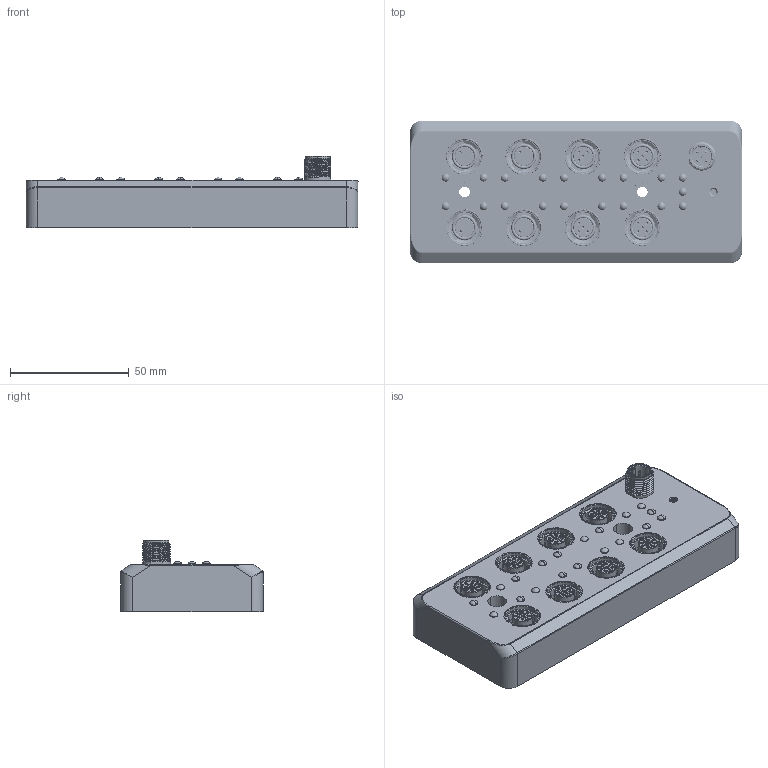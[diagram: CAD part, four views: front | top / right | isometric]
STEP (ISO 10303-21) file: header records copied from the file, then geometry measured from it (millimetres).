
FILE_DESCRIPTION((''),'2;1');
FILE_NAME('IO-LINK-00','2026-06-10T15:26:41',('zhouyu1'),(''),'CREO PARAMETRIC BY PTC INC, 2016390','CREO PARAMETRIC BY PTC INC, 2016390','');
FILE_SCHEMA(('AUTOMOTIVE_DESIGN { 1 0 10303 214 1 1 1 1 }'));
Products named in the file (1): IO-LINK-00
Bounding box: 140 x 60 x 30 mm (x, y, z)
Volume: 72083.6 mm3; surface area: 64898.7 mm2
Topology: 1 solids, 8 shells, 3008 faces, 7528 edges, 4853 vertices
Faces by surface type: cylinder 1033, plane 983, cone 472, bspline 287, torus 113, extrusion 81, sphere 39
Entity records: 159944 total; most frequent: CARTESIAN_POINT 68477, ORIENTED_EDGE 14948, DIRECTION 13826, EDGE_CURVE 7474, AXIS2_PLACEMENT_3D 5369, VERTEX_POINT 4853, EDGE_LOOP 3435, PRESENTATION_STYLE_ASSIGNMENT 3089
